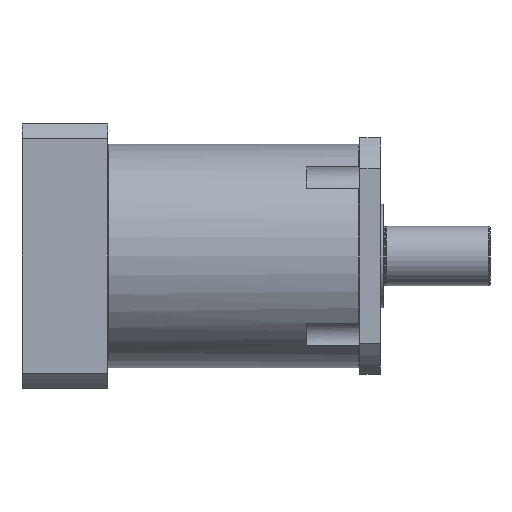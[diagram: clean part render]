
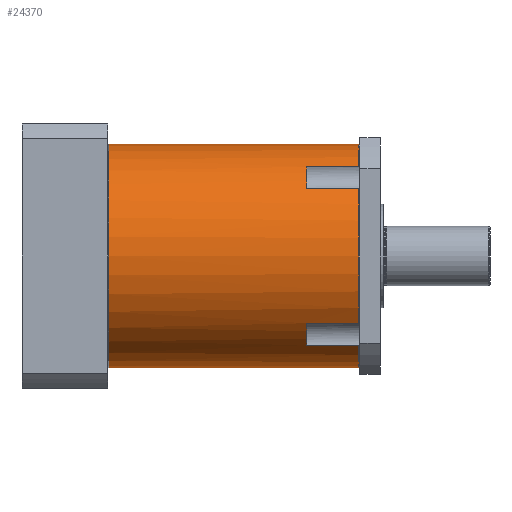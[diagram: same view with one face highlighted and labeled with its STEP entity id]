
A CAD part, front view. The second image highlights one B-rep face of the part: STEP entity #24370.
In plain terms, the highlighted cylindrical face has radius 60 mm (diameter 120 mm), a partial arc.
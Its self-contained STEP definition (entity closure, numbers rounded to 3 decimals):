
#279 = LINE ( 'NONE', #5287, #21953 ) ;
#343 = CARTESIAN_POINT ( 'NONE',  ( 52.368, 0., 0. ) ) ;
#845 = ORIENTED_EDGE ( 'NONE', *, *, #26558, .T. ) ;
#860 = VECTOR ( 'NONE', #17525, 1000. ) ;
#888 = CARTESIAN_POINT ( 'NONE',  ( 121.25, -36.137, -47.897 ) ) ;
#915 = VECTOR ( 'NONE', #14110, 1000. ) ;
#1675 = CARTESIAN_POINT ( 'NONE',  ( 135., -47.897, -36.137 ) ) ;
#3058 = ORIENTED_EDGE ( 'NONE', *, *, #17126, .T. ) ;
#3684 = EDGE_CURVE ( 'NONE', #30918, #4934, #26374, .T. ) ;
#3985 = VERTEX_POINT ( 'NONE', #24289 ) ;
#4934 = VERTEX_POINT ( 'NONE', #1675 ) ;
#5287 = CARTESIAN_POINT ( 'NONE',  ( 52.368, 0., -60. ) ) ;
#5313 = DIRECTION ( 'NONE',  ( 0., 0., -1. ) ) ;
#5421 = ORIENTED_EDGE ( 'NONE', *, *, #25398, .F. ) ;
#5564 = CARTESIAN_POINT ( 'NONE',  ( 135., -36.137, 47.897 ) ) ;
#5612 = CARTESIAN_POINT ( 'NONE',  ( 107., -36.137, -47.897 ) ) ;
#5642 = EDGE_CURVE ( 'NONE', #4934, #28633, #8454, .T. ) ;
#6435 = DIRECTION ( 'NONE',  ( 1., 0., 0. ) ) ;
#6658 = CARTESIAN_POINT ( 'NONE',  ( 135., -36.137, -47.897 ) ) ;
#6836 = VERTEX_POINT ( 'NONE', #30781 ) ;
#7337 = DIRECTION ( 'NONE',  ( 0., 0., -1. ) ) ;
#7377 = CARTESIAN_POINT ( 'NONE',  ( 52.368, 0., 60. ) ) ;
#7495 = CARTESIAN_POINT ( 'NONE',  ( 107., 0., 0. ) ) ;
#7682 = CARTESIAN_POINT ( 'NONE',  ( 0.5, 0., 0. ) ) ;
#7721 = FACE_OUTER_BOUND ( 'NONE', #15801, .T. ) ;
#8079 = AXIS2_PLACEMENT_3D ( 'NONE', #7682, #26848, #5313 ) ;
#8265 = AXIS2_PLACEMENT_3D ( 'NONE', #343, #24207, #29084 ) ;
#8454 = CIRCLE ( 'NONE', #26009, 60. ) ;
#8914 = CARTESIAN_POINT ( 'NONE',  ( 135., 0., 0. ) ) ;
#9410 = ORIENTED_EDGE ( 'NONE', *, *, #11412, .T. ) ;
#9575 = CIRCLE ( 'NONE', #8079, 60. ) ;
#9854 = EDGE_CURVE ( 'NONE', #20144, #6836, #19312, .T. ) ;
#9870 = CARTESIAN_POINT ( 'NONE',  ( 121.25, -47.897, -36.137 ) ) ;
#9891 = VERTEX_POINT ( 'NONE', #29062 ) ;
#10140 = DIRECTION ( 'NONE',  ( -1., 0., 0. ) ) ;
#10493 = CARTESIAN_POINT ( 'NONE',  ( 0.5, 0., 60. ) ) ;
#10553 = DIRECTION ( 'NONE',  ( -1., 0., 0. ) ) ;
#10570 = ORIENTED_EDGE ( 'NONE', *, *, #27637, .F. ) ;
#11035 = CARTESIAN_POINT ( 'NONE',  ( 121.25, -47.897, 36.137 ) ) ;
#11267 = AXIS2_PLACEMENT_3D ( 'NONE', #22914, #6435, #15682 ) ;
#11409 = DIRECTION ( 'NONE',  ( -1., 0., 0. ) ) ;
#11412 = EDGE_CURVE ( 'NONE', #25986, #15827, #19555, .T. ) ;
#11563 = CARTESIAN_POINT ( 'NONE',  ( 135., 0., 0. ) ) ;
#12413 = VECTOR ( 'NONE', #24189, 1000. ) ;
#12501 = DIRECTION ( 'NONE',  ( 1., 0., 0. ) ) ;
#12667 = ORIENTED_EDGE ( 'NONE', *, *, #12979, .T. ) ;
#12979 = EDGE_CURVE ( 'NONE', #20144, #9891, #9575, .T. ) ;
#14110 = DIRECTION ( 'NONE',  ( 1., 0., 0. ) ) ;
#14131 = AXIS2_PLACEMENT_3D ( 'NONE', #11563, #11409, #26170 ) ;
#14790 = VERTEX_POINT ( 'NONE', #20718 ) ;
#15519 = CARTESIAN_POINT ( 'NONE',  ( 107., -47.897, -36.137 ) ) ;
#15682 = DIRECTION ( 'NONE',  ( 0., 0., -1. ) ) ;
#15801 = EDGE_LOOP ( 'NONE', ( #15941, #12667, #24001, #24544, #9410, #10570, #27210, #17981, #3058, #5421, #845, #16964 ) ) ;
#15827 = VERTEX_POINT ( 'NONE', #5612 ) ;
#15941 = ORIENTED_EDGE ( 'NONE', *, *, #9854, .F. ) ;
#16964 = ORIENTED_EDGE ( 'NONE', *, *, #26138, .T. ) ;
#17126 = EDGE_CURVE ( 'NONE', #28633, #14790, #20452, .T. ) ;
#17525 = DIRECTION ( 'NONE',  ( 1., 0., 0. ) ) ;
#17676 = LINE ( 'NONE', #29770, #860 ) ;
#17927 = VERTEX_POINT ( 'NONE', #5564 ) ;
#17981 = ORIENTED_EDGE ( 'NONE', *, *, #5642, .T. ) ;
#18114 = DIRECTION ( 'NONE',  ( -1., 0., 0. ) ) ;
#18482 = DIRECTION ( 'NONE',  ( 0., 0., 1. ) ) ;
#19312 = LINE ( 'NONE', #7377, #12413 ) ;
#19555 = LINE ( 'NONE', #888, #24577 ) ;
#20140 = CIRCLE ( 'NONE', #14131, 60. ) ;
#20144 = VERTEX_POINT ( 'NONE', #10493 ) ;
#20333 = EDGE_CURVE ( 'NONE', #29754, #25986, #20140, .T. ) ;
#20452 = LINE ( 'NONE', #11035, #24829 ) ;
#20718 = CARTESIAN_POINT ( 'NONE',  ( 107., -47.897, 36.137 ) ) ;
#21953 = VECTOR ( 'NONE', #12501, 1000. ) ;
#22914 = CARTESIAN_POINT ( 'NONE',  ( 107., 0., 0. ) ) ;
#23453 = AXIS2_PLACEMENT_3D ( 'NONE', #7495, #23982, #7337 ) ;
#23982 = DIRECTION ( 'NONE',  ( 1., 0., 0. ) ) ;
#24001 = ORIENTED_EDGE ( 'NONE', *, *, #27666, .T. ) ;
#24189 = DIRECTION ( 'NONE',  ( 1., 0., 0. ) ) ;
#24207 = DIRECTION ( 'NONE',  ( 1., 0., 0. ) ) ;
#24289 = CARTESIAN_POINT ( 'NONE',  ( 107., -36.137, 47.897 ) ) ;
#24370 = ADVANCED_FACE ( 'NONE', ( #7721 ), #24536, .T. ) ;
#24536 = CYLINDRICAL_SURFACE ( 'NONE', #8265, 60. ) ;
#24544 = ORIENTED_EDGE ( 'NONE', *, *, #20333, .T. ) ;
#24577 = VECTOR ( 'NONE', #10140, 1000. ) ;
#24829 = VECTOR ( 'NONE', #18114, 1000. ) ;
#25398 = EDGE_CURVE ( 'NONE', #3985, #14790, #29838, .T. ) ;
#25986 = VERTEX_POINT ( 'NONE', #6658 ) ;
#26009 = AXIS2_PLACEMENT_3D ( 'NONE', #8914, #27610, #18482 ) ;
#26138 = EDGE_CURVE ( 'NONE', #17927, #6836, #26406, .T. ) ;
#26170 = DIRECTION ( 'NONE',  ( 0., 0., 1. ) ) ;
#26205 = CARTESIAN_POINT ( 'NONE',  ( 135., 0., -60. ) ) ;
#26374 = LINE ( 'NONE', #9870, #915 ) ;
#26406 = CIRCLE ( 'NONE', #27396, 60. ) ;
#26558 = EDGE_CURVE ( 'NONE', #3985, #17927, #17676, .T. ) ;
#26848 = DIRECTION ( 'NONE',  ( 1., 0., 0. ) ) ;
#27210 = ORIENTED_EDGE ( 'NONE', *, *, #3684, .T. ) ;
#27396 = AXIS2_PLACEMENT_3D ( 'NONE', #30340, #10553, #30034 ) ;
#27487 = CIRCLE ( 'NONE', #23453, 60. ) ;
#27610 = DIRECTION ( 'NONE',  ( -1., 0., 0. ) ) ;
#27637 = EDGE_CURVE ( 'NONE', #30918, #15827, #27487, .T. ) ;
#27666 = EDGE_CURVE ( 'NONE', #9891, #29754, #279, .T. ) ;
#28633 = VERTEX_POINT ( 'NONE', #29182 ) ;
#29062 = CARTESIAN_POINT ( 'NONE',  ( 0.5, 0., -60. ) ) ;
#29084 = DIRECTION ( 'NONE',  ( 0., 0., -1. ) ) ;
#29182 = CARTESIAN_POINT ( 'NONE',  ( 135., -47.897, 36.137 ) ) ;
#29754 = VERTEX_POINT ( 'NONE', #26205 ) ;
#29770 = CARTESIAN_POINT ( 'NONE',  ( 121.25, -36.137, 47.897 ) ) ;
#29838 = CIRCLE ( 'NONE', #11267, 60. ) ;
#30034 = DIRECTION ( 'NONE',  ( 0., 0., 1. ) ) ;
#30340 = CARTESIAN_POINT ( 'NONE',  ( 135., 0., 0. ) ) ;
#30781 = CARTESIAN_POINT ( 'NONE',  ( 135., 0., 60. ) ) ;
#30918 = VERTEX_POINT ( 'NONE', #15519 ) ;
